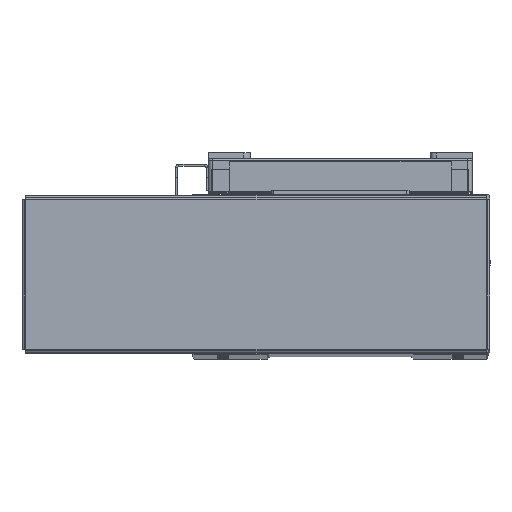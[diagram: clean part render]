
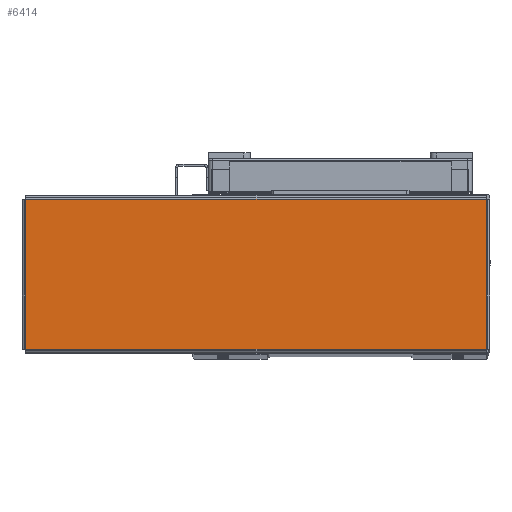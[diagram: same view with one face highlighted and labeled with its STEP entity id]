
A CAD part, top view. The second image highlights one B-rep face of the part: STEP entity #6414.
In plain terms, the highlighted planar face has unit normal (0, 0, 1) as drawn and (0, -1, 0) by its records, which use the part's own axes.
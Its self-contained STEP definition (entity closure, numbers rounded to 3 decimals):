
#89 = EDGE_CURVE ( 'NONE', #9676, #9725, #65659, .T. ) ;
#102 = EDGE_CURVE ( 'NONE', #9735, #9741, #65677, .T. ) ;
#110 = EDGE_CURVE ( 'NONE', #9741, #9676, #65650, .T. ) ;
#145 = EDGE_CURVE ( 'NONE', #9725, #9735, #65764, .T. ) ;
#6414 = ADVANCED_FACE ( 'NONE', ( #21116 ), #17574, .F. ) ;
#9676 = VERTEX_POINT ( 'NONE', #27461 ) ;
#9725 = VERTEX_POINT ( 'NONE', #27781 ) ;
#9735 = VERTEX_POINT ( 'NONE', #27708 ) ;
#9741 = VERTEX_POINT ( 'NONE', #27727 ) ;
#13775 = ORIENTED_EDGE ( 'NONE', *, *, #110, .T. ) ;
#13781 = ORIENTED_EDGE ( 'NONE', *, *, #145, .T. ) ;
#13816 = ORIENTED_EDGE ( 'NONE', *, *, #89, .T. ) ;
#13822 = ORIENTED_EDGE ( 'NONE', *, *, #102, .T. ) ;
#15101 = AXIS2_PLACEMENT_3D ( 'NONE', #17511, #17508, #17497 ) ;
#17497 = DIRECTION ( 'NONE',  ( 0., 0., 1. ) ) ;
#17508 = DIRECTION ( 'NONE',  ( 0., 1., 0. ) ) ;
#17511 = CARTESIAN_POINT ( 'NONE',  ( 0., -1., 0. ) ) ;
#17574 = PLANE ( 'NONE',  #15101 ) ;
#21116 = FACE_OUTER_BOUND ( 'NONE', #36437, .T. ) ;
#27461 = CARTESIAN_POINT ( 'NONE',  ( -103.763, -1., 33.763 ) ) ;
#27708 = CARTESIAN_POINT ( 'NONE',  ( 103.763, -1., -33.763 ) ) ;
#27727 = CARTESIAN_POINT ( 'NONE',  ( 103.763, -1., 33.763 ) ) ;
#27781 = CARTESIAN_POINT ( 'NONE',  ( -103.763, -1., -33.763 ) ) ;
#36437 = EDGE_LOOP ( 'NONE', ( #13775, #13816, #13781, #13822 ) ) ;
#62609 = DIRECTION ( 'NONE',  ( 0., 0., -1. ) ) ;
#62619 = CARTESIAN_POINT ( 'NONE',  ( -103.763, -1., 33.793 ) ) ;
#62642 = DIRECTION ( 'NONE',  ( 0., 0., 1. ) ) ;
#62661 = CARTESIAN_POINT ( 'NONE',  ( 103.763, -1., -33.793 ) ) ;
#62686 = DIRECTION ( 'NONE',  ( -1., 0., 0. ) ) ;
#62690 = CARTESIAN_POINT ( 'NONE',  ( 103.793, -1., 33.763 ) ) ;
#62761 = DIRECTION ( 'NONE',  ( 1., 0., 0. ) ) ;
#62773 = CARTESIAN_POINT ( 'NONE',  ( -103.793, -1., -33.763 ) ) ;
#65650 = LINE ( 'NONE', #62690, #65651 ) ;
#65651 = VECTOR ( 'NONE', #62686, 1000. ) ;
#65659 = LINE ( 'NONE', #62619, #65687 ) ;
#65677 = LINE ( 'NONE', #62661, #65711 ) ;
#65687 = VECTOR ( 'NONE', #62609, 1000. ) ;
#65711 = VECTOR ( 'NONE', #62642, 1000. ) ;
#65732 = VECTOR ( 'NONE', #62761, 1000. ) ;
#65764 = LINE ( 'NONE', #62773, #65732 ) ;
